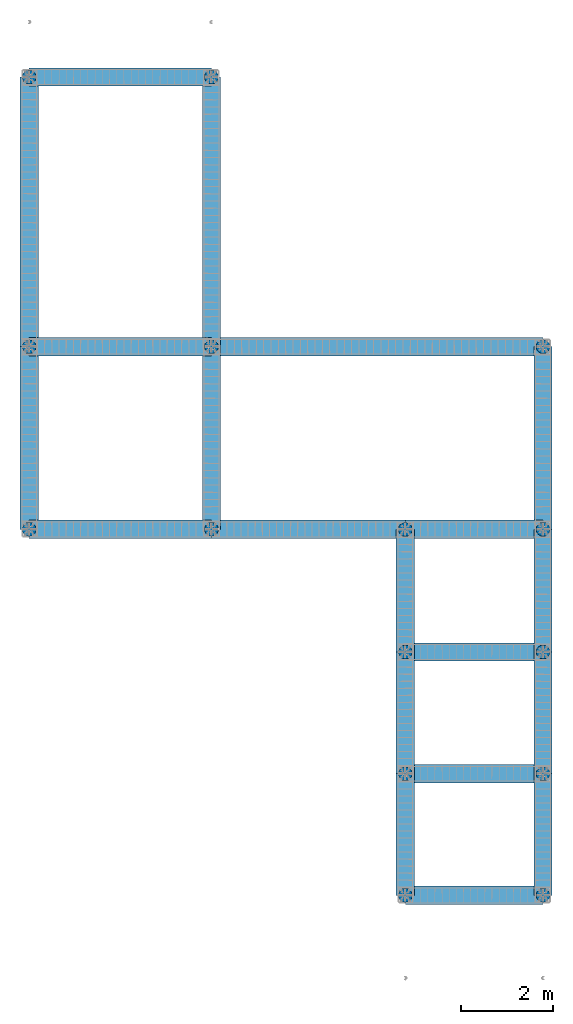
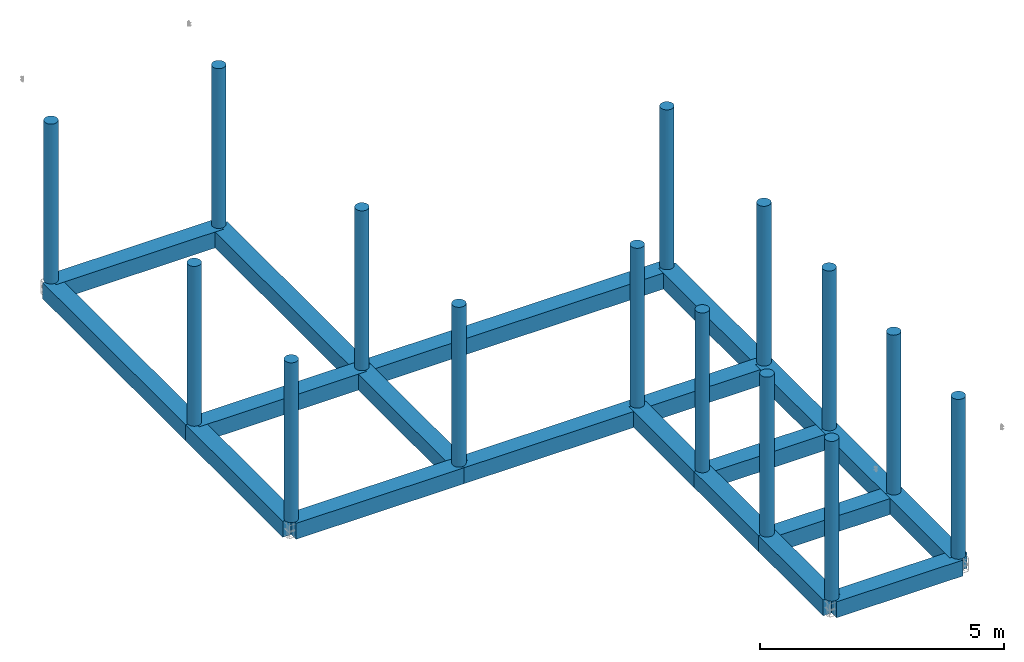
# One storey, part 1 of 20: 20 beams, 15 columns.
"""IFC4 building model written with IfcOpenShell, lengths in metres."""

from ifc_helpers import new_model, si_unit, frame, origin_with_axes, origin_2d_with_axis, place, context, project, spatial, rectangle, circle, extrude, material, material_profile, profile_set, profile_usage, type_object, element, save


model = new_model("IFC4")

# Units and contexts
model_context = context("Model", 3, precision=1e-05, world=origin_with_axes())
ifc_project = project(units=[si_unit("LENGTHUNIT", "METRE"), si_unit("AREAUNIT", "SQUARE_METRE"), si_unit("VOLUMEUNIT", "CUBIC_METRE"), si_unit("MASSUNIT", "GRAM", prefix="KILO"), si_unit("TIMEUNIT", "SECOND"), si_unit("PLANEANGLEUNIT", "RADIAN"), si_unit("SOLIDANGLEUNIT", "STERADIAN"), si_unit("THERMODYNAMICTEMPERATUREUNIT", "DEGREE_CELSIUS")], contexts=[model_context])

# Site, building, storey
placement_1 = place(None, origin_with_axes())
site = spatial("IfcSite", under=ifc_project, at=placement_1, Name="Italia", CompositionType="ELEMENT")
building = spatial("IfcBuilding", under=site, at=placement_1, Name="Tettoia", CompositionType="ELEMENT")
storey = spatial("IfcBuildingStorey", under=building, at=placement_1, Name="Storey 0", CompositionType="ELEMENT", Elevation=0.0)

# Columns
ifc_material = material(Name="Calcestruzzo classe C25/30", Category="Calcestruzzo classe C25/30")
ifc_material_profile = material_profile(ifc_material, circle(Radius=0.15, at=origin_2d_with_axis()), Name="1 PILASTRO D30")
ifc_profile_set = profile_set([ifc_material_profile])
column_type_1 = type_object("IfcColumnType", Name="1 PILASTRO D30", PredefinedType="COLUMN", material=ifc_profile_set)
placement_2 = place(placement_1, origin_with_axes())
column_1_placement = place(placement_2, origin_with_axes())
element("IfcColumn", 1, at=column_1_placement, inside=storey, type_object=column_type_1, Name="5", context=model_context, shape_type="SweptSolid", body=[
    extrude(circle(Radius=0.15, at=origin_2d_with_axis()), frame((8.29, 7.3, 0.0), z_axis=(0.0, 0.0, 1.0), x_axis=(0.0, 1.0, 0.0)), (0.0, 0.0, 1.0), 4.0),
])
ifc_profile_usage_1 = profile_usage(ifc_profile_set, cardinal=1)
column_type_2 = type_object("IfcColumnType", Name="1 PILASTRO D30", PredefinedType="COLUMN", material=ifc_profile_usage_1)
column_2_placement = place(placement_2, origin_with_axes())
element("IfcColumn", 2, at=column_2_placement, inside=storey, type_object=column_type_2, Name="6", context=model_context, shape_type="SweptSolid", body=[
    extrude(circle(Radius=0.15, at=origin_2d_with_axis()), frame((11.29, 7.3, 0.0), z_axis=(0.0, 0.0, 1.0), x_axis=(0.0, 1.0, 0.0)), (0.0, 0.0, 1.0), 4.0),
])
ifc_profile_usage_2 = profile_usage(ifc_profile_set, cardinal=1)
column_type_3 = type_object("IfcColumnType", Name="1 PILASTRO D30", PredefinedType="COLUMN", material=ifc_profile_usage_2)
column_3_placement = place(placement_2, origin_with_axes())
element("IfcColumn", 3, at=column_3_placement, inside=storey, type_object=column_type_3, Name="4", context=model_context, shape_type="SweptSolid", body=[
    extrude(circle(Radius=0.15, at=origin_2d_with_axis()), frame((11.29, 4.65, 0.0), z_axis=(0.0, 0.0, 1.0), x_axis=(0.0, 1.0, 0.0)), (0.0, 0.0, 1.0), 4.0),
])
ifc_profile_usage_3 = profile_usage(ifc_profile_set, cardinal=1)
column_type_4 = type_object("IfcColumnType", Name="1 PILASTRO D30", PredefinedType="COLUMN", material=ifc_profile_usage_3)
column_4_placement = place(placement_2, origin_with_axes())
element("IfcColumn", 4, at=column_4_placement, inside=storey, type_object=column_type_4, Name="3", context=model_context, shape_type="SweptSolid", body=[
    extrude(circle(Radius=0.15, at=origin_2d_with_axis()), frame((8.29, 4.65, 0.0), z_axis=(0.0, 0.0, 1.0), x_axis=(0.0, 1.0, 0.0)), (0.0, 0.0, 1.0), 4.0),
])
ifc_profile_usage_4 = profile_usage(ifc_profile_set, cardinal=1)
column_type_5 = type_object("IfcColumnType", Name="1 PILASTRO D30", PredefinedType="COLUMN", material=ifc_profile_usage_4)
column_5_placement = place(placement_2, origin_with_axes())
element("IfcColumn", 5, at=column_5_placement, inside=storey, type_object=column_type_5, Name="8", context=model_context, shape_type="SweptSolid", body=[
    extrude(circle(Radius=0.15, at=origin_2d_with_axis()), frame((4.07, 9.97, 0.0), z_axis=(0.0, 0.0, 1.0), x_axis=(0.0, 1.0, 0.0)), (0.0, 0.0, 1.0), 4.0),
])
ifc_profile_usage_5 = profile_usage(ifc_profile_set, cardinal=1)
column_type_6 = type_object("IfcColumnType", Name="1 PILASTRO D30", PredefinedType="COLUMN", material=ifc_profile_usage_5)
column_6_placement = place(placement_2, origin_with_axes())
element("IfcColumn", 6, at=column_6_placement, inside=storey, type_object=column_type_6, Name="12", context=model_context, shape_type="SweptSolid", body=[
    extrude(circle(Radius=0.15, at=origin_2d_with_axis()), frame((4.07, 13.95, 0.0), z_axis=(0.0, 0.0, 1.0), x_axis=(0.0, 1.0, 0.0)), (0.0, 0.0, 1.0), 4.0),
])
ifc_profile_usage_6 = profile_usage(ifc_profile_set, cardinal=1)
column_type_7 = type_object("IfcColumnType", Name="1 PILASTRO D30", PredefinedType="COLUMN", material=ifc_profile_usage_6)
column_7_placement = place(placement_2, origin_with_axes())
element("IfcColumn", 7, at=column_7_placement, inside=storey, type_object=column_type_7, Name="13", context=model_context, shape_type="SweptSolid", body=[
    extrude(circle(Radius=0.15, at=origin_2d_with_axis()), frame((11.29, 13.95, 0.0), z_axis=(0.0, 0.0, 1.0), x_axis=(0.0, 1.0, 0.0)), (0.0, 0.0, 1.0), 4.0),
])
ifc_profile_usage_7 = profile_usage(ifc_profile_set, cardinal=1)
column_type_8 = type_object("IfcColumnType", Name="1 PILASTRO D30", PredefinedType="COLUMN", material=ifc_profile_usage_7)
column_8_placement = place(placement_2, origin_with_axes())
element("IfcColumn", 8, at=column_8_placement, inside=storey, type_object=column_type_8, Name="15", context=model_context, shape_type="SweptSolid", body=[
    extrude(circle(Radius=0.15, at=origin_2d_with_axis()), frame((4.07, 19.82, 0.0), z_axis=(0.0, 0.0, 1.0), x_axis=(0.0, 1.0, 0.0)), (0.0, 0.0, 1.0), 4.0),
])
ifc_profile_usage_8 = profile_usage(ifc_profile_set, cardinal=1)
column_type_9 = type_object("IfcColumnType", Name="1 PILASTRO D30", PredefinedType="COLUMN", material=ifc_profile_usage_8)
column_9_placement = place(placement_2, origin_with_axes())
element("IfcColumn", 9, at=column_9_placement, inside=storey, type_object=column_type_9, Name="14", context=model_context, shape_type="SweptSolid", body=[
    extrude(circle(Radius=0.15, at=origin_2d_with_axis()), frame((0.1, 19.82, 0.0), z_axis=(0.0, 0.0, 1.0), x_axis=(0.0, 1.0, 0.0)), (0.0, 0.0, 1.0), 4.0),
])
ifc_profile_usage_9 = profile_usage(ifc_profile_set, cardinal=1)
column_type_10 = type_object("IfcColumnType", Name="1 PILASTRO D30", PredefinedType="COLUMN", material=ifc_profile_usage_9)
column_10_placement = place(placement_2, origin_with_axes())
element("IfcColumn", 10, at=column_10_placement, inside=storey, type_object=column_type_10, Name="1", context=model_context, shape_type="SweptSolid", body=[
    extrude(circle(Radius=0.15, at=origin_2d_with_axis()), frame((8.29, 2.0, 0.0), z_axis=(0.0, 0.0, 1.0), x_axis=(0.0, 1.0, 0.0)), (0.0, 0.0, 1.0), 4.0),
])
ifc_profile_usage_10 = profile_usage(ifc_profile_set, cardinal=1)
column_type_11 = type_object("IfcColumnType", Name="1 PILASTRO D30", PredefinedType="COLUMN", material=ifc_profile_usage_10)
column_11_placement = place(placement_2, origin_with_axes())
element("IfcColumn", 11, at=column_11_placement, inside=storey, type_object=column_type_11, Name="9", context=model_context, shape_type="SweptSolid", body=[
    extrude(circle(Radius=0.15, at=origin_2d_with_axis()), frame((8.29, 9.97, 0.0), z_axis=(0.0, 0.0, 1.0), x_axis=(0.0, 1.0, 0.0)), (0.0, 0.0, 1.0), 4.0),
])
ifc_profile_usage_11 = profile_usage(ifc_profile_set, cardinal=1)
column_type_12 = type_object("IfcColumnType", Name="1 PILASTRO D30", PredefinedType="COLUMN", material=ifc_profile_usage_11)
column_12_placement = place(placement_2, origin_with_axes())
element("IfcColumn", 12, at=column_12_placement, inside=storey, type_object=column_type_12, Name="22", context=model_context, shape_type="SweptSolid", body=[
    extrude(circle(Radius=0.15, at=origin_2d_with_axis()), frame((0.1, 13.95, 0.0), z_axis=(0.0, 0.0, 1.0), x_axis=(0.0, 1.0, 0.0)), (0.0, 0.0, 1.0), 4.0),
])
ifc_profile_usage_12 = profile_usage(ifc_profile_set, cardinal=1)
column_type_13 = type_object("IfcColumnType", Name="1 PILASTRO D30", PredefinedType="COLUMN", material=ifc_profile_usage_12)
column_13_placement = place(placement_2, origin_with_axes())
element("IfcColumn", 13, at=column_13_placement, inside=storey, type_object=column_type_13, Name="23", context=model_context, shape_type="SweptSolid", body=[
    extrude(circle(Radius=0.15, at=origin_2d_with_axis()), frame((0.1, 9.97, 0.0), z_axis=(0.0, 0.0, 1.0), x_axis=(0.0, 1.0, 0.0)), (0.0, 0.0, 1.0), 4.0),
])
ifc_profile_usage_13 = profile_usage(ifc_profile_set, cardinal=1)
column_type_14 = type_object("IfcColumnType", Name="1 PILASTRO D30", PredefinedType="COLUMN", material=ifc_profile_usage_13)
column_14_placement = place(placement_2, origin_with_axes())
element("IfcColumn", 14, at=column_14_placement, inside=storey, type_object=column_type_14, Name="2", context=model_context, shape_type="SweptSolid", body=[
    extrude(circle(Radius=0.15, at=origin_2d_with_axis()), frame((11.29, 2.0, 0.0), z_axis=(0.0, 0.0, 1.0), x_axis=(0.0, 1.0, 0.0)), (0.0, 0.0, 1.0), 4.0),
])
ifc_profile_usage_14 = profile_usage(ifc_profile_set, cardinal=1)
column_type_15 = type_object("IfcColumnType", Name="1 PILASTRO D30", PredefinedType="COLUMN", material=ifc_profile_usage_14)
column_15_placement = place(placement_2, origin_with_axes())
element("IfcColumn", 15, at=column_15_placement, inside=storey, type_object=column_type_15, Name="26", context=model_context, shape_type="SweptSolid", body=[
    extrude(circle(Radius=0.15, at=origin_2d_with_axis()), frame((11.29, 9.97, 0.0), z_axis=(0.0, 0.0, 1.0), x_axis=(0.0, 1.0, 0.0)), (0.0, 0.0, 1.0), 4.0),
])

# Beams
ifc_profile_usage_15 = profile_usage(ifc_profile_set, cardinal=2)
beam_type_1 = type_object("IfcBeamType", Name="2 TRAVE 40X40", PredefinedType="BEAM", material=ifc_profile_usage_15)
beam_1_placement = place(placement_2, origin_with_axes())
element("IfcBeam", 16, at=beam_1_placement, inside=storey, type_object=beam_type_1, Name="406", context=model_context, shape_type="SweptSolid", body=[
    extrude(rectangle(XDim=0.4, YDim=0.4, at=origin_2d_with_axis()), frame((4.07, 13.95, -0.2), z_axis=(-1.0, 0.0, 0.0), x_axis=(0.0, -1.0, 0.0)), (0.0, 0.0, 1.0), 3.97),
])
ifc_profile_usage_16 = profile_usage(ifc_profile_set, cardinal=2)
beam_type_2 = type_object("IfcBeamType", Name="2 TRAVE 40X40", PredefinedType="BEAM", material=ifc_profile_usage_16)
beam_2_placement = place(placement_2, origin_with_axes())
element("IfcBeam", 17, at=beam_2_placement, inside=storey, type_object=beam_type_2, Name="410", context=model_context, shape_type="SweptSolid", body=[
    extrude(rectangle(XDim=0.4, YDim=0.4, at=origin_2d_with_axis()), frame((4.07, 13.95, -0.2), z_axis=(0.0, -1.0, 0.0), x_axis=(1.0, 0.0, 0.0)), (0.0, 0.0, 1.0), 3.98),
])
ifc_profile_usage_17 = profile_usage(ifc_profile_set, cardinal=2)
beam_type_3 = type_object("IfcBeamType", Name="2 TRAVE 40X40", PredefinedType="BEAM", material=ifc_profile_usage_17)
beam_3_placement = place(placement_2, origin_with_axes())
element("IfcBeam", 18, at=beam_3_placement, inside=storey, type_object=beam_type_3, Name="405", context=model_context, shape_type="SweptSolid", body=[
    extrude(rectangle(XDim=0.4, YDim=0.4, at=origin_2d_with_axis()), frame((11.29, 9.97, -0.2), z_axis=(-1.0, 0.0, 0.0), x_axis=(0.0, -1.0, 0.0)), (0.0, 0.0, 1.0), 3.0),
])
ifc_profile_usage_18 = profile_usage(ifc_profile_set, cardinal=2)
beam_type_4 = type_object("IfcBeamType", Name="2 TRAVE 40X40", PredefinedType="BEAM", material=ifc_profile_usage_18)
beam_4_placement = place(placement_2, origin_with_axes())
element("IfcBeam", 19, at=beam_4_placement, inside=storey, type_object=beam_type_4, Name="404", context=model_context, shape_type="SweptSolid", body=[
    extrude(rectangle(XDim=0.4, YDim=0.4, at=origin_2d_with_axis()), frame((11.29, 7.3, -0.2), z_axis=(-1.0, 0.0, 0.0), x_axis=(0.0, -1.0, 0.0)), (0.0, 0.0, 1.0), 3.0),
])
ifc_profile_usage_19 = profile_usage(ifc_profile_set, cardinal=2)
beam_type_5 = type_object("IfcBeamType", Name="2 TRAVE 40X40", PredefinedType="BEAM", material=ifc_profile_usage_19)
beam_5_placement = place(placement_2, origin_with_axes())
element("IfcBeam", 20, at=beam_5_placement, inside=storey, type_object=beam_type_5, Name="403", context=model_context, shape_type="SweptSolid", body=[
    extrude(rectangle(XDim=0.4, YDim=0.4, at=origin_2d_with_axis()), frame((11.29, 4.65, -0.2), z_axis=(-1.0, 0.0, 0.0), x_axis=(0.0, -1.0, 0.0)), (0.0, 0.0, 1.0), 3.0),
])
ifc_profile_usage_20 = profile_usage(ifc_profile_set, cardinal=2)
beam_type_6 = type_object("IfcBeamType", Name="2 TRAVE 40X40", PredefinedType="BEAM", material=ifc_profile_usage_20)
beam_6_placement = place(placement_2, origin_with_axes())
element("IfcBeam", 21, at=beam_6_placement, inside=storey, type_object=beam_type_6, Name="402", context=model_context, shape_type="SweptSolid", body=[
    extrude(rectangle(XDim=0.4, YDim=0.4, at=origin_2d_with_axis()), frame((11.29, 2.0, -0.2), z_axis=(-1.0, 0.0, 0.0), x_axis=(0.0, -1.0, 0.0)), (0.0, 0.0, 1.0), 3.0),
])
ifc_profile_usage_21 = profile_usage(ifc_profile_set, cardinal=2)
beam_type_7 = type_object("IfcBeamType", Name="2 TRAVE 40X40", PredefinedType="BEAM", material=ifc_profile_usage_21)
beam_7_placement = place(placement_2, origin_with_axes())
element("IfcBeam", 22, at=beam_7_placement, inside=storey, type_object=beam_type_7, Name="412", context=model_context, shape_type="SweptSolid", body=[
    extrude(rectangle(XDim=0.4, YDim=0.4, at=origin_2d_with_axis()), frame((11.29, 4.65, -0.2), z_axis=(0.0, -1.0, 0.0), x_axis=(1.0, 0.0, 0.0)), (0.0, 0.0, 1.0), 2.65),
])
ifc_profile_usage_22 = profile_usage(ifc_profile_set, cardinal=2)
beam_type_8 = type_object("IfcBeamType", Name="2 TRAVE 40X40", PredefinedType="BEAM", material=ifc_profile_usage_22)
beam_8_placement = place(placement_2, origin_with_axes())
element("IfcBeam", 23, at=beam_8_placement, inside=storey, type_object=beam_type_8, Name="412", context=model_context, shape_type="SweptSolid", body=[
    extrude(rectangle(XDim=0.4, YDim=0.4, at=origin_2d_with_axis()), frame((11.29, 7.3, -0.2), z_axis=(0.0, -1.0, 0.0), x_axis=(1.0, 0.0, 0.0)), (0.0, 0.0, 1.0), 2.65),
])
ifc_profile_usage_23 = profile_usage(ifc_profile_set, cardinal=2)
beam_type_9 = type_object("IfcBeamType", Name="2 TRAVE 40X40", PredefinedType="BEAM", material=ifc_profile_usage_23)
beam_9_placement = place(placement_2, origin_with_axes())
element("IfcBeam", 24, at=beam_9_placement, inside=storey, type_object=beam_type_9, Name="412", context=model_context, shape_type="SweptSolid", body=[
    extrude(rectangle(XDim=0.4, YDim=0.4, at=origin_2d_with_axis()), frame((11.29, 9.97, -0.2), z_axis=(0.0, -1.0, 0.0), x_axis=(1.0, 0.0, 0.0)), (0.0, 0.0, 1.0), 2.67),
])
ifc_profile_usage_24 = profile_usage(ifc_profile_set, cardinal=2)
beam_type_10 = type_object("IfcBeamType", Name="2 TRAVE 40X40", PredefinedType="BEAM", material=ifc_profile_usage_24)
beam_10_placement = place(placement_2, origin_with_axes())
element("IfcBeam", 25, at=beam_10_placement, inside=storey, type_object=beam_type_10, Name="412", context=model_context, shape_type="SweptSolid", body=[
    extrude(rectangle(XDim=0.4, YDim=0.4, at=origin_2d_with_axis()), frame((11.29, 13.95, -0.2), z_axis=(0.0, -1.0, 0.0), x_axis=(1.0, 0.0, 0.0)), (0.0, 0.0, 1.0), 3.98),
])
ifc_profile_usage_25 = profile_usage(ifc_profile_set, cardinal=2)
beam_type_11 = type_object("IfcBeamType", Name="2 TRAVE 40X40", PredefinedType="BEAM", material=ifc_profile_usage_25)
beam_11_placement = place(placement_2, origin_with_axes())
element("IfcBeam", 26, at=beam_11_placement, inside=storey, type_object=beam_type_11, Name="406", context=model_context, shape_type="SweptSolid", body=[
    extrude(rectangle(XDim=0.4, YDim=0.4, at=origin_2d_with_axis()), frame((4.07, 13.95, -0.2), z_axis=(1.0, 0.0, 0.0), x_axis=(0.0, 1.0, 0.0)), (0.0, 0.0, 1.0), 7.22),
])
ifc_profile_usage_26 = profile_usage(ifc_profile_set, cardinal=2)
beam_type_12 = type_object("IfcBeamType", Name="2 TRAVE 40X40", PredefinedType="BEAM", material=ifc_profile_usage_26)
beam_12_placement = place(placement_2, origin_with_axes())
element("IfcBeam", 27, at=beam_12_placement, inside=storey, type_object=beam_type_12, Name="410", context=model_context, shape_type="SweptSolid", body=[
    extrude(rectangle(XDim=0.4, YDim=0.4, at=origin_2d_with_axis()), frame((4.07, 19.82, -0.2), z_axis=(0.0, -1.0, 0.0), x_axis=(1.0, 0.0, 0.0)), (0.0, 0.0, 1.0), 5.87),
])
ifc_profile_usage_27 = profile_usage(ifc_profile_set, cardinal=2)
beam_type_13 = type_object("IfcBeamType", Name="2 TRAVE 40X40", PredefinedType="BEAM", material=ifc_profile_usage_27)
beam_13_placement = place(placement_2, origin_with_axes())
element("IfcBeam", 28, at=beam_13_placement, inside=storey, type_object=beam_type_13, Name="407", context=model_context, shape_type="SweptSolid", body=[
    extrude(rectangle(XDim=0.4, YDim=0.4, at=origin_2d_with_axis()), frame((0.1, 19.82, -0.2), z_axis=(1.0, 0.0, 0.0), x_axis=(0.0, 1.0, 0.0)), (0.0, 0.0, 1.0), 3.97),
])
ifc_profile_usage_28 = profile_usage(ifc_profile_set, cardinal=2)
beam_type_14 = type_object("IfcBeamType", Name="2 TRAVE 40X40", PredefinedType="BEAM", material=ifc_profile_usage_28)
beam_14_placement = place(placement_2, origin_with_axes())
element("IfcBeam", 29, at=beam_14_placement, inside=storey, type_object=beam_type_14, Name="409", context=model_context, shape_type="SweptSolid", body=[
    extrude(rectangle(XDim=0.4, YDim=0.4, at=origin_2d_with_axis()), frame((0.1, 13.95, -0.2), z_axis=(0.0, 1.0, 0.0), x_axis=(-1.0, 0.0, 0.0)), (0.0, 0.0, 1.0), 5.87),
])
ifc_profile_usage_29 = profile_usage(ifc_profile_set, cardinal=2)
beam_type_15 = type_object("IfcBeamType", Name="2 TRAVE 40X40", PredefinedType="BEAM", material=ifc_profile_usage_29)
beam_15_placement = place(placement_2, origin_with_axes())
element("IfcBeam", 30, at=beam_15_placement, inside=storey, type_object=beam_type_15, Name="409", context=model_context, shape_type="SweptSolid", body=[
    extrude(rectangle(XDim=0.4, YDim=0.4, at=origin_2d_with_axis()), frame((0.1, 9.97, -0.2), z_axis=(0.0, 1.0, 0.0), x_axis=(-1.0, 0.0, 0.0)), (0.0, 0.0, 1.0), 3.98),
])
ifc_profile_usage_30 = profile_usage(ifc_profile_set, cardinal=2)
beam_type_16 = type_object("IfcBeamType", Name="2 TRAVE 40X40", PredefinedType="BEAM", material=ifc_profile_usage_30)
beam_16_placement = place(placement_2, origin_with_axes())
element("IfcBeam", 31, at=beam_16_placement, inside=storey, type_object=beam_type_16, Name="405", context=model_context, shape_type="SweptSolid", body=[
    extrude(rectangle(XDim=0.4, YDim=0.4, at=origin_2d_with_axis()), frame((4.07, 9.97, -0.2), z_axis=(-1.0, 0.0, 0.0), x_axis=(0.0, -1.0, 0.0)), (0.0, 0.0, 1.0), 3.97),
])
ifc_profile_usage_31 = profile_usage(ifc_profile_set, cardinal=2)
beam_type_17 = type_object("IfcBeamType", Name="2 TRAVE 40X40", PredefinedType="BEAM", material=ifc_profile_usage_31)
beam_17_placement = place(placement_2, origin_with_axes())
element("IfcBeam", 32, at=beam_17_placement, inside=storey, type_object=beam_type_17, Name="405", context=model_context, shape_type="SweptSolid", body=[
    extrude(rectangle(XDim=0.4, YDim=0.4, at=origin_2d_with_axis()), frame((8.29, 9.97, -0.2), z_axis=(-1.0, 0.0, 0.0), x_axis=(0.0, -1.0, 0.0)), (0.0, 0.0, 1.0), 4.22),
])
ifc_profile_usage_32 = profile_usage(ifc_profile_set, cardinal=2)
beam_type_18 = type_object("IfcBeamType", Name="2 TRAVE 40X40", PredefinedType="BEAM", material=ifc_profile_usage_32)
beam_18_placement = place(placement_2, origin_with_axes())
element("IfcBeam", 33, at=beam_18_placement, inside=storey, type_object=beam_type_18, Name="411", context=model_context, shape_type="SweptSolid", body=[
    extrude(rectangle(XDim=0.4, YDim=0.4, at=origin_2d_with_axis()), frame((8.29, 7.3, -0.2), z_axis=(0.0, 1.0, 0.0), x_axis=(-1.0, 0.0, 0.0)), (0.0, 0.0, 1.0), 2.67),
])
ifc_profile_usage_33 = profile_usage(ifc_profile_set, cardinal=2)
beam_type_19 = type_object("IfcBeamType", Name="2 TRAVE 40X40", PredefinedType="BEAM", material=ifc_profile_usage_33)
beam_19_placement = place(placement_2, origin_with_axes())
element("IfcBeam", 34, at=beam_19_placement, inside=storey, type_object=beam_type_19, Name="411", context=model_context, shape_type="SweptSolid", body=[
    extrude(rectangle(XDim=0.4, YDim=0.4, at=origin_2d_with_axis()), frame((8.29, 4.65, -0.2), z_axis=(0.0, 1.0, 0.0), x_axis=(-1.0, 0.0, 0.0)), (0.0, 0.0, 1.0), 2.65),
])
ifc_profile_usage_34 = profile_usage(ifc_profile_set, cardinal=2)
beam_type_20 = type_object("IfcBeamType", Name="2 TRAVE 40X40", PredefinedType="BEAM", material=ifc_profile_usage_34)
beam_20_placement = place(placement_2, origin_with_axes())
element("IfcBeam", 35, at=beam_20_placement, inside=storey, type_object=beam_type_20, Name="411", context=model_context, shape_type="SweptSolid", body=[
    extrude(rectangle(XDim=0.4, YDim=0.4, at=origin_2d_with_axis()), frame((8.29, 2.0, -0.2), z_axis=(0.0, 1.0, 0.0), x_axis=(-1.0, 0.0, 0.0)), (0.0, 0.0, 1.0), 2.65),
])

save(model, "model.ifc")
